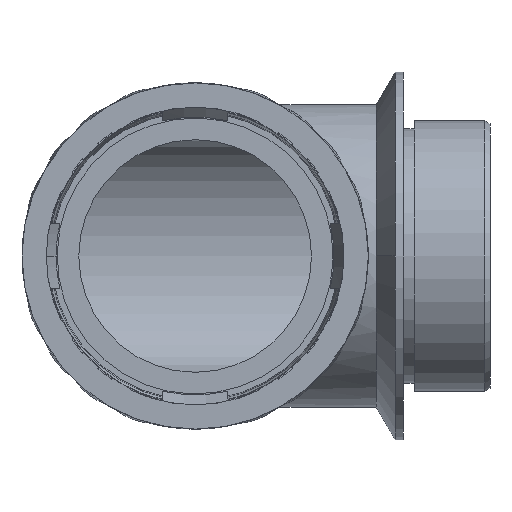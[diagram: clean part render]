
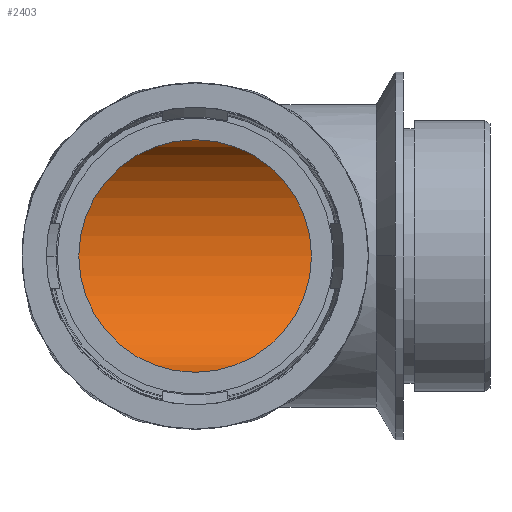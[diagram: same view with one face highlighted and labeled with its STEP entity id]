
A CAD part, front view. The second image highlights one B-rep face of the part: STEP entity #2403.
In plain terms, the highlighted toroidal (fillet/blend) face has major radius 21.5 mm and minor radius 21.5 mm.
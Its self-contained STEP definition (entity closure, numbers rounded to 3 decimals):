
#298 = ORIENTED_EDGE ( 'NONE', *, *, #10675, .F. ) ;
#341 = DIRECTION ( 'NONE',  ( 1., 0., 0. ) ) ;
#401 = EDGE_CURVE ( 'NONE', #15927, #4667, #17394, .T. ) ;
#559 = AXIS2_PLACEMENT_3D ( 'NONE', #1446, #16739, #11130 ) ;
#588 = CARTESIAN_POINT ( 'NONE',  ( 21.5, 38.5, 0. ) ) ;
#933 = DIRECTION ( 'NONE',  ( 0., 0., -1. ) ) ;
#1099 = DIRECTION ( 'NONE',  ( 1., 0., 0. ) ) ;
#1446 = CARTESIAN_POINT ( 'NONE',  ( 0., 38.5, 0. ) ) ;
#1726 = DIRECTION ( 'NONE',  ( 0., 0., -1. ) ) ;
#1783 = DIRECTION ( 'NONE',  ( 0., 0., 1. ) ) ;
#2101 = AXIS2_PLACEMENT_3D ( 'NONE', #4420, #5884, #1726 ) ;
#2285 = CIRCLE ( 'NONE', #2101, 21.5 ) ;
#2403 = ADVANCED_FACE ( 'NONE', ( #13828 ), #16923, .F. ) ;
#2708 = EDGE_LOOP ( 'NONE', ( #5227, #13445, #7956, #17941, #298, #15594 ) ) ;
#2835 = AXIS2_PLACEMENT_3D ( 'NONE', #9137, #9008, #10429 ) ;
#3833 = DIRECTION ( 'NONE',  ( 0., 0., -1. ) ) ;
#4237 = AXIS2_PLACEMENT_3D ( 'NONE', #8947, #1783, #341 ) ;
#4420 = CARTESIAN_POINT ( 'NONE',  ( 21.5, 60., 0. ) ) ;
#4667 = VERTEX_POINT ( 'NONE', #588 ) ;
#5227 = ORIENTED_EDGE ( 'NONE', *, *, #15971, .T. ) ;
#5333 = DIRECTION ( 'NONE',  ( 0., 0., -1. ) ) ;
#5736 = VERTEX_POINT ( 'NONE', #7176 ) ;
#5884 = DIRECTION ( 'NONE',  ( 1., 0., 0. ) ) ;
#7176 = CARTESIAN_POINT ( 'NONE',  ( 0., 38.5, -21.5 ) ) ;
#7587 = VERTEX_POINT ( 'NONE', #11590 ) ;
#7612 = EDGE_CURVE ( 'NONE', #14362, #7587, #2285, .T. ) ;
#7812 = CIRCLE ( 'NONE', #13577, 21.5 ) ;
#7956 = ORIENTED_EDGE ( 'NONE', *, *, #17142, .T. ) ;
#8051 = CARTESIAN_POINT ( 'NONE',  ( 0., 38.5, 21.5 ) ) ;
#8947 = CARTESIAN_POINT ( 'NONE',  ( 21.5, 38.5, 0. ) ) ;
#9008 = DIRECTION ( 'NONE',  ( 0., 1., 0. ) ) ;
#9137 = CARTESIAN_POINT ( 'NONE',  ( 0., 38.5, 0. ) ) ;
#10429 = DIRECTION ( 'NONE',  ( 0., 0., -1. ) ) ;
#10556 = CIRCLE ( 'NONE', #559, 21.5 ) ;
#10675 = EDGE_CURVE ( 'NONE', #5736, #15927, #16526, .T. ) ;
#11130 = DIRECTION ( 'NONE',  ( 0., 0., -1. ) ) ;
#11590 = CARTESIAN_POINT ( 'NONE',  ( 21.5, 60., 21.5 ) ) ;
#11950 = CIRCLE ( 'NONE', #12757, 21.5 ) ;
#12034 = CARTESIAN_POINT ( 'NONE',  ( 21.5, 60., 0. ) ) ;
#12250 = AXIS2_PLACEMENT_3D ( 'NONE', #12290, #17776, #3833 ) ;
#12290 = CARTESIAN_POINT ( 'NONE',  ( 0., 38.5, 0. ) ) ;
#12757 = AXIS2_PLACEMENT_3D ( 'NONE', #16470, #1099, #5333 ) ;
#12997 = CARTESIAN_POINT ( 'NONE',  ( 21.5, 60., -21.5 ) ) ;
#13445 = ORIENTED_EDGE ( 'NONE', *, *, #7612, .T. ) ;
#13577 = AXIS2_PLACEMENT_3D ( 'NONE', #12034, #14937, #933 ) ;
#13828 = FACE_OUTER_BOUND ( 'NONE', #2708, .T. ) ;
#14362 = VERTEX_POINT ( 'NONE', #12997 ) ;
#14788 = EDGE_CURVE ( 'NONE', #4667, #5736, #10556, .T. ) ;
#14937 = DIRECTION ( 'NONE',  ( 1., 0., 0. ) ) ;
#15594 = ORIENTED_EDGE ( 'NONE', *, *, #14788, .F. ) ;
#15927 = VERTEX_POINT ( 'NONE', #8051 ) ;
#15971 = EDGE_CURVE ( 'NONE', #4667, #14362, #7812, .T. ) ;
#16470 = CARTESIAN_POINT ( 'NONE',  ( 21.5, 60., 0. ) ) ;
#16526 = CIRCLE ( 'NONE', #12250, 21.5 ) ;
#16739 = DIRECTION ( 'NONE',  ( 0., 1., 0. ) ) ;
#16923 = TOROIDAL_SURFACE ( 'NONE', #4237, 21.5, 21.5 ) ;
#17142 = EDGE_CURVE ( 'NONE', #7587, #4667, #11950, .T. ) ;
#17394 = CIRCLE ( 'NONE', #2835, 21.5 ) ;
#17776 = DIRECTION ( 'NONE',  ( 0., 1., 0. ) ) ;
#17941 = ORIENTED_EDGE ( 'NONE', *, *, #401, .F. ) ;
